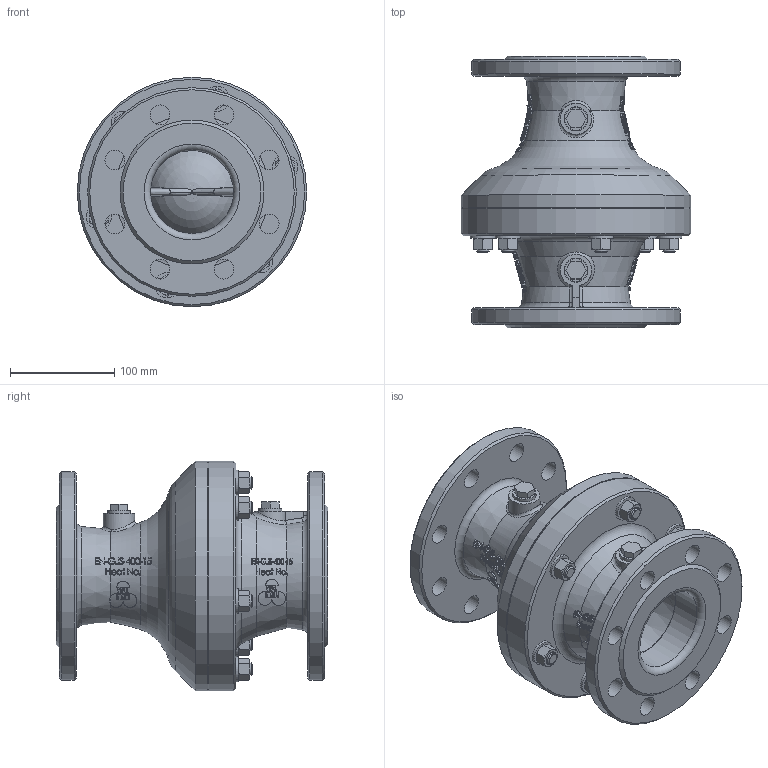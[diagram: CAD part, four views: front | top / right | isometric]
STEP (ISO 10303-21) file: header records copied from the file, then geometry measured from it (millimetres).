
FILE_DESCRIPTION(/* description */ ('PSA Hydro-Stop DN80 PN16'),/* implementation_level */ '2;1');
FILE_NAME(/* name */ 'PSA_Hydro-Stop_DN80',/* time_stamp */ '2024-10-09T15:55:18+02:00',/* author */ ('Christin-Michelle Fremgen'),/* organization */ ('PSA Wasserarmaturen GmbH'),/* preprocessor_version */ 'ST-DEVELOPER v18.104',/* originating_system */ 'Solid Edge',/* authorisation */ 'Unknown');
FILE_SCHEMA (('AUTOMOTIVE_DESIGN {1 0 10303 214 3 1 1}'));
Products named in the file (1): PSA_Hydro-Stop_DN80
Bounding box: 220 x 260 x 220 mm (x, y, z)
Volume: 3673208.3 mm3; surface area: 376825.5 mm2
Topology: 1 solids, 19 shells, 1386 faces, 3592 edges, 2388 vertices
Faces by surface type: plane 592, bspline 462, cone 151, cylinder 84, torus 84, sphere 13
Full cylindrical faces by diameter (mm): 10.2 x2, 12 x12, 13 x6, 13.98 x2, 14 x6, 14.95 x2, 16.66 x2, 18 x2, 19 x16, 22 x2, 23 x2, 24 x6, 30 x1, 80 x1, 81 x1, 200 x2, 220 x2
Entity records: 68157 total; most frequent: CARTESIAN_POINT 29550, ORIENTED_EDGE 6712, DIRECTION 4243, EDGE_CURVE 3356, VERTEX_POINT 2309, FACE_BOUND 1735, EDGE_LOOP 1727, B_SPLINE_CURVE_WITH_KNOTS 1646
